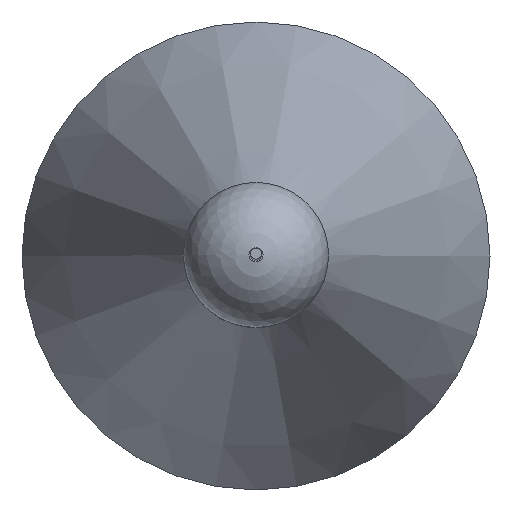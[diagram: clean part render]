
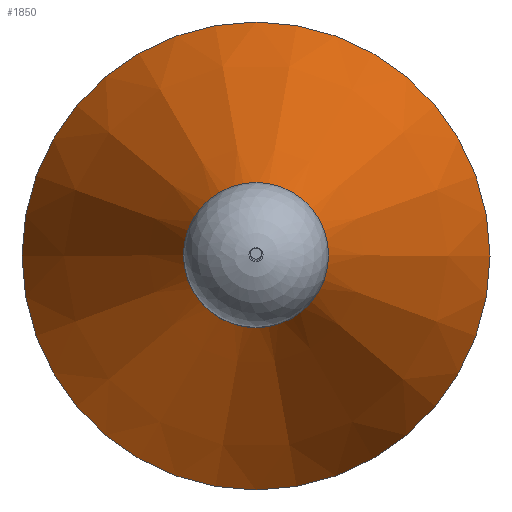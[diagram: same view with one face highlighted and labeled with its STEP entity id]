
A CAD part, top view. The second image highlights one B-rep face of the part: STEP entity #1850.
In plain terms, the highlighted conical face has half-angle 21.021 degrees and reference radius 61.087 mm.
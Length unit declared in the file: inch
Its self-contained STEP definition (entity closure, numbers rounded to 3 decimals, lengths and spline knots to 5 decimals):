
#28=CONICAL_SURFACE('',#2057,2.405,0.367);
#263=LINE('',#3268,#434);
#434=VECTOR('',#2570,2.405);
#590=FACE_OUTER_BOUND('',#693,.T.);
#693=EDGE_LOOP('',(#1709,#1710,#1711,#1712,#1713));
#752=CIRCLE('',#2058,3.75);
#753=CIRCLE('',#2059,3.75);
#754=CIRCLE('',#2060,1.06);
#944=VERTEX_POINT('',#3263);
#945=VERTEX_POINT('',#3264);
#946=VERTEX_POINT('',#3267);
#1202=EDGE_CURVE('',#944,#945,#752,.T.);
#1203=EDGE_CURVE('',#945,#944,#753,.T.);
#1204=EDGE_CURVE('',#945,#946,#263,.T.);
#1205=EDGE_CURVE('',#946,#946,#754,.T.);
#1709=ORIENTED_EDGE('',*,*,#1202,.F.);
#1710=ORIENTED_EDGE('',*,*,#1203,.F.);
#1711=ORIENTED_EDGE('',*,*,#1204,.T.);
#1712=ORIENTED_EDGE('',*,*,#1205,.F.);
#1713=ORIENTED_EDGE('',*,*,#1204,.F.);
#1850=ADVANCED_FACE('',(#590),#28,.T.);
#2057=AXIS2_PLACEMENT_3D('',#3262,#2564,#2565);
#2058=AXIS2_PLACEMENT_3D('',#3265,#2566,#2567);
#2059=AXIS2_PLACEMENT_3D('',#3266,#2568,#2569);
#2060=AXIS2_PLACEMENT_3D('',#3269,#2571,#2572);
#2564=DIRECTION('center_axis',(0.,0.,-1.));
#2565=DIRECTION('ref_axis',(-1.,0.,0.));
#2566=DIRECTION('center_axis',(0.,0.,-1.));
#2567=DIRECTION('ref_axis',(1.,0.,0.));
#2568=DIRECTION('center_axis',(0.,0.,-1.));
#2569=DIRECTION('ref_axis',(1.,0.,0.));
#2570=DIRECTION('',(-0.359,0.,0.933));
#2571=DIRECTION('center_axis',(0.,0.,1.));
#2572=DIRECTION('ref_axis',(-1.,0.,0.));
#3262=CARTESIAN_POINT('Origin',(0.,0.,1.5));
#3263=CARTESIAN_POINT('',(-3.75,0.,-2.));
#3264=CARTESIAN_POINT('',(3.75,0.,-2.));
#3265=CARTESIAN_POINT('Origin',(0.,0.,-2.));
#3266=CARTESIAN_POINT('Origin',(0.,0.,-2.));
#3267=CARTESIAN_POINT('',(1.06,0.,5.));
#3268=CARTESIAN_POINT('',(2.405,0.,1.5));
#3269=CARTESIAN_POINT('Origin',(0.,0.,5.));
